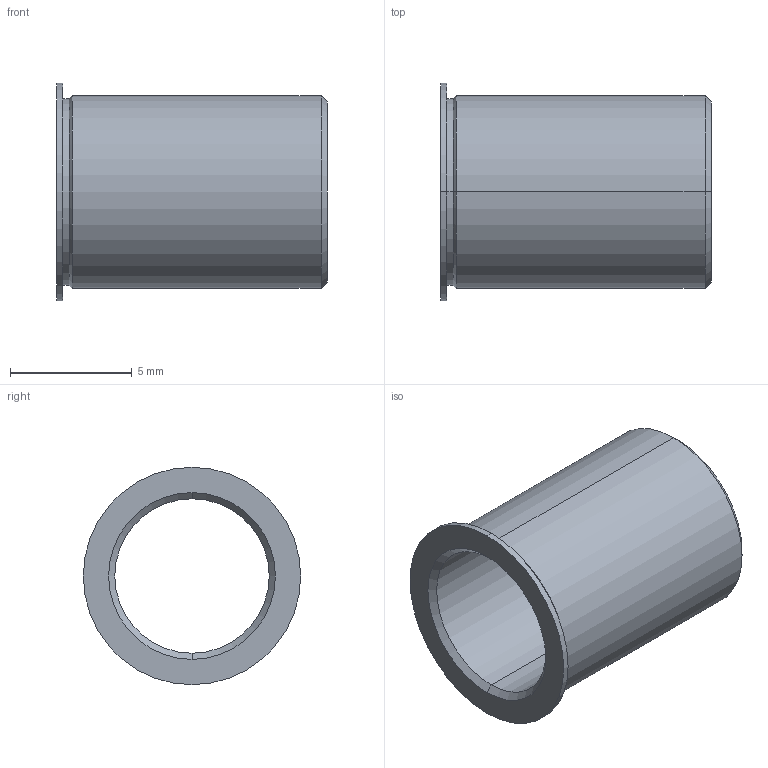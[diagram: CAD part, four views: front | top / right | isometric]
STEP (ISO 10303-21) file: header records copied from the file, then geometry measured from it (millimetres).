
FILE_DESCRIPTION (( 'STEP AP214' ), '1' );
FILE_NAME ('TB250-80-438.STEP', '2013-02-13T15:14:02', ( 'workpc' ), ( 'Microsoft' ), 'SwSTEP 2.0', 'SolidWorks 2013', '' );
FILE_SCHEMA (( 'AUTOMOTIVE_DESIGN' ));
Length unit declared in the file: inch
Products named in the file (1): TB250-80-438
Bounding box: 11.13 x 8.94 x 8.94 mm (x, y, z)
Volume: 198.5 mm3; surface area: 557 mm2
Topology: 1 solids, 1 shells, 19 faces, 38 edges, 22 vertices
Faces by surface type: cone 8, cylinder 8, plane 3
Entity records: 564 total; most frequent: DIRECTION 100, CARTESIAN_POINT 80, ORIENTED_EDGE 76, AXIS2_PLACEMENT_3D 42, EDGE_CURVE 38, EDGE_LOOP 22, VERTEX_POINT 22, CIRCLE 22
